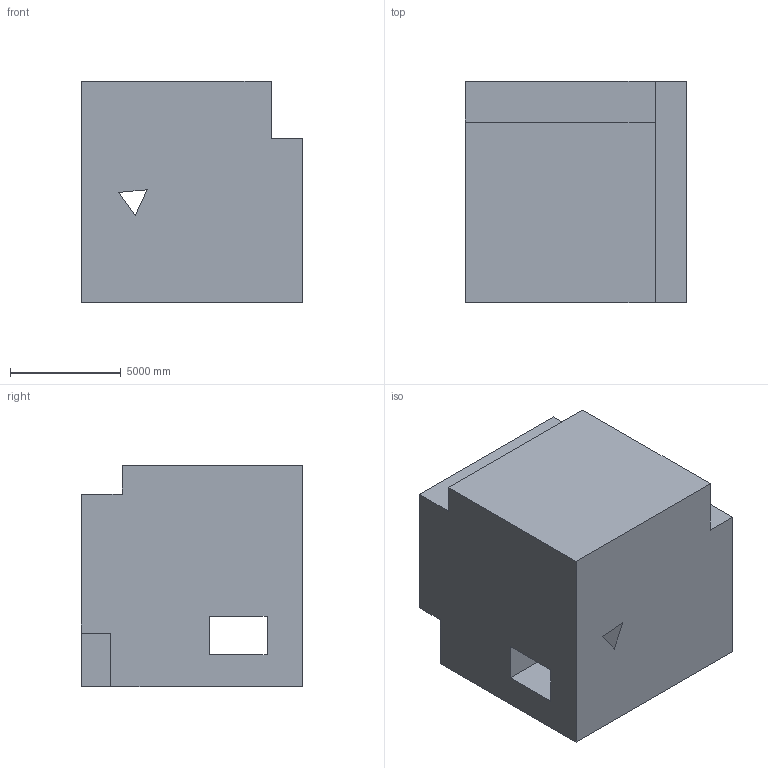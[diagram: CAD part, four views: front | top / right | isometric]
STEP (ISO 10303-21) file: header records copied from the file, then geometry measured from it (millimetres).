
FILE_DESCRIPTION (( 'STEP AP203' ), '1' );
FILE_NAME ('82.STEP', '2022-08-31T14:40:21', ( 'user' ), ( '' ), 'SwSTEP 2.0', 'SolidWorks 2021', '' );
FILE_SCHEMA (( 'CONFIG_CONTROL_DESIGN' ));
Length unit declared in the file: centimetre
Products named in the file (1): 82
Bounding box: 10000 x 10000 x 10000 mm (x, y, z)
Volume: 865166687873.1 mm3; surface area: 702707925.6 mm2
Topology: 1 solids, 1 shells, 20 faces, 54 edges, 36 vertices
Faces by surface type: plane 20
Entity records: 703 total; most frequent: CARTESIAN_POINT 111, ORIENTED_EDGE 108, DIRECTION 96, VECTOR 54, LINE 54, EDGE_CURVE 54, VERTEX_POINT 36, EDGE_LOOP 24
